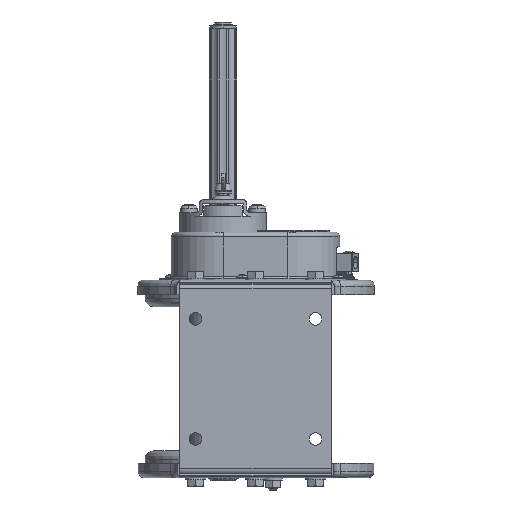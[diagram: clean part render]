
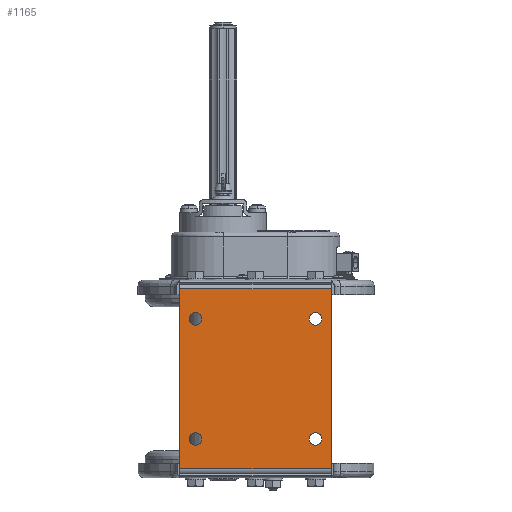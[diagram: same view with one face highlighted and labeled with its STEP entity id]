
A CAD part, front view. The second image highlights one B-rep face of the part: STEP entity #1165.
In plain terms, the highlighted planar face has unit normal (0, -1, 0).
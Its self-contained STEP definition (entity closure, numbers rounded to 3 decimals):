
#1165=ADVANCED_FACE('',(#13046,#13047,#13048,#13049,#13050),#13045,.F.);
#13045=PLANE('',#33503);
#13046=FACE_OUTER_BOUND('',#33504,.T.);
#13047=FACE_BOUND('',#33505,.T.);
#13048=FACE_BOUND('',#33506,.T.);
#13049=FACE_BOUND('',#33507,.T.);
#13050=FACE_BOUND('',#33508,.T.);
#33500=CARTESIAN_POINT('',(-184.621,-15.835,-160.482));
#33501=DIRECTION('',(0.,1.,0.));
#33502=DIRECTION('',(0.,0.,1.));
#33503=AXIS2_PLACEMENT_3D('',#33500,#33501,#33502);
#33504=EDGE_LOOP('',(#47420,#47421,#47422,#47423));
#33505=EDGE_LOOP('',(#47424,#47425));
#33506=EDGE_LOOP('',(#47426,#47427));
#33507=EDGE_LOOP('',(#47428,#47429));
#33508=EDGE_LOOP('',(#47430,#47431));
#47420=ORIENTED_EDGE('',*,*,#56893,.F.);
#47421=ORIENTED_EDGE('',*,*,#56894,.F.);
#47422=ORIENTED_EDGE('',*,*,#56858,.T.);
#47423=ORIENTED_EDGE('',*,*,#56195,.T.);
#47424=ORIENTED_EDGE('',*,*,#56895,.T.);
#47425=ORIENTED_EDGE('',*,*,#56896,.T.);
#47426=ORIENTED_EDGE('',*,*,#56897,.T.);
#47427=ORIENTED_EDGE('',*,*,#56898,.T.);
#47428=ORIENTED_EDGE('',*,*,#56899,.T.);
#47429=ORIENTED_EDGE('',*,*,#56900,.T.);
#47430=ORIENTED_EDGE('',*,*,#56901,.T.);
#47431=ORIENTED_EDGE('',*,*,#56902,.T.);
#56195=EDGE_CURVE('',#78598,#78591,#78599,.T.);
#56858=EDGE_CURVE('',#83053,#78598,#83060,.T.);
#56893=EDGE_CURVE('',#83286,#78591,#83293,.T.);
#56894=EDGE_CURVE('',#83053,#83286,#83299,.T.);
#56895=EDGE_CURVE('',#83305,#83306,#83307,.T.);
#56896=EDGE_CURVE('',#83306,#83305,#83313,.T.);
#56897=EDGE_CURVE('',#83319,#83320,#83321,.T.);
#56898=EDGE_CURVE('',#83320,#83319,#83327,.T.);
#56899=EDGE_CURVE('',#83333,#83334,#83335,.T.);
#56900=EDGE_CURVE('',#83334,#83333,#83341,.T.);
#56901=EDGE_CURVE('',#83347,#83348,#83349,.T.);
#56902=EDGE_CURVE('',#83348,#83347,#83355,.T.);
#78591=VERTEX_POINT('',#110845);
#78598=VERTEX_POINT('',#110850);
#78599=LINE('',#110851,#110852);
#83053=VERTEX_POINT('',#113834);
#83060=LINE('',#113839,#113840);
#83286=VERTEX_POINT('',#113988);
#83293=LINE('',#113993,#113994);
#83299=LINE('',#113996,#113997);
#83305=VERTEX_POINT('',#113999);
#83306=VERTEX_POINT('',#114000);
#83307=CIRCLE('',#114004,5.25);
#83313=CIRCLE('',#114008,5.25);
#83319=VERTEX_POINT('',#114009);
#83320=VERTEX_POINT('',#114010);
#83321=CIRCLE('',#114014,5.25);
#83327=CIRCLE('',#114018,5.25);
#83333=VERTEX_POINT('',#114019);
#83334=VERTEX_POINT('',#114020);
#83335=CIRCLE('',#114024,5.25);
#83341=CIRCLE('',#114028,5.25);
#83347=VERTEX_POINT('',#114029);
#83348=VERTEX_POINT('',#114030);
#83349=CIRCLE('',#114034,5.25);
#83355=CIRCLE('',#114038,5.25);
#110845=CARTESIAN_POINT('',(-174.621,-15.835,-150.482));
#110850=CARTESIAN_POINT('',(-174.621,-15.835,-0.482));
#110851=CARTESIAN_POINT('',(-174.621,-15.835,-0.482));
#110852=VECTOR('',#110853,150.);
#110853=DIRECTION('',(0.,0.,-1.));
#113834=CARTESIAN_POINT('',(-48.621,-15.835,-0.482));
#113839=CARTESIAN_POINT('',(-48.621,-15.835,-0.482));
#113840=VECTOR('',#113841,126.);
#113841=DIRECTION('',(-1.,0.,0.));
#113988=CARTESIAN_POINT('',(-48.621,-15.835,-150.482));
#113993=CARTESIAN_POINT('',(-48.621,-15.835,-150.482));
#113994=VECTOR('',#113995,126.);
#113995=DIRECTION('',(-1.,0.,0.));
#113996=CARTESIAN_POINT('',(-48.621,-15.835,-0.482));
#113997=VECTOR('',#113998,150.);
#113998=DIRECTION('',(0.,0.,-1.));
#113999=CARTESIAN_POINT('',(-161.621,-15.835,-120.232));
#114000=CARTESIAN_POINT('',(-161.621,-15.835,-130.732));
#114001=CARTESIAN_POINT('',(-161.621,-15.835,-125.482));
#114002=DIRECTION('',(0.,1.,0.));
#114003=DIRECTION('',(0.,0.,1.));
#114004=AXIS2_PLACEMENT_3D('',#114001,#114002,#114003);
#114005=CARTESIAN_POINT('',(-161.621,-15.835,-125.482));
#114006=DIRECTION('',(0.,1.,0.));
#114007=DIRECTION('',(0.,0.,1.));
#114008=AXIS2_PLACEMENT_3D('',#114005,#114006,#114007);
#114009=CARTESIAN_POINT('',(-61.621,-15.835,-120.232));
#114010=CARTESIAN_POINT('',(-61.621,-15.835,-130.732));
#114011=CARTESIAN_POINT('',(-61.621,-15.835,-125.482));
#114012=DIRECTION('',(0.,1.,0.));
#114013=DIRECTION('',(0.,0.,1.));
#114014=AXIS2_PLACEMENT_3D('',#114011,#114012,#114013);
#114015=CARTESIAN_POINT('',(-61.621,-15.835,-125.482));
#114016=DIRECTION('',(0.,1.,0.));
#114017=DIRECTION('',(0.,0.,1.));
#114018=AXIS2_PLACEMENT_3D('',#114015,#114016,#114017);
#114019=CARTESIAN_POINT('',(-61.621,-15.835,-20.232));
#114020=CARTESIAN_POINT('',(-61.621,-15.835,-30.732));
#114021=CARTESIAN_POINT('',(-61.621,-15.835,-25.482));
#114022=DIRECTION('',(0.,1.,0.));
#114023=DIRECTION('',(0.,0.,1.));
#114024=AXIS2_PLACEMENT_3D('',#114021,#114022,#114023);
#114025=CARTESIAN_POINT('',(-61.621,-15.835,-25.482));
#114026=DIRECTION('',(0.,1.,0.));
#114027=DIRECTION('',(0.,0.,1.));
#114028=AXIS2_PLACEMENT_3D('',#114025,#114026,#114027);
#114029=CARTESIAN_POINT('',(-161.621,-15.835,-20.232));
#114030=CARTESIAN_POINT('',(-161.621,-15.835,-30.732));
#114031=CARTESIAN_POINT('',(-161.621,-15.835,-25.482));
#114032=DIRECTION('',(0.,1.,0.));
#114033=DIRECTION('',(0.,0.,1.));
#114034=AXIS2_PLACEMENT_3D('',#114031,#114032,#114033);
#114035=CARTESIAN_POINT('',(-161.621,-15.835,-25.482));
#114036=DIRECTION('',(0.,1.,0.));
#114037=DIRECTION('',(0.,0.,1.));
#114038=AXIS2_PLACEMENT_3D('',#114035,#114036,#114037);
